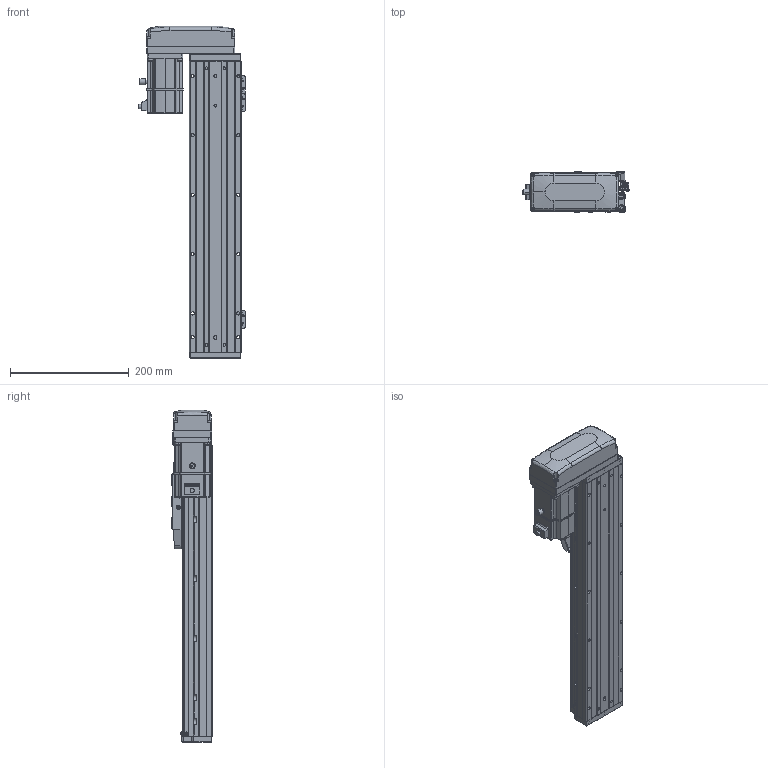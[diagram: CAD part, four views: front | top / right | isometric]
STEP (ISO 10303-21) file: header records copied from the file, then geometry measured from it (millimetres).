
FILE_DESCRIPTION (( 'STEP AP203' ), '1' );
FILE_NAME ('CTHA86-300-BR-M20-C4L.step', '2022-04-26T00:59:29', ( '微软用户' ), ( '微软中国' ), 'SwSTEP 2.0', 'SolidWorks 2020', '' );
FILE_SCHEMA (( 'CONFIG_CONTROL_DESIGN' ));
Length unit declared in the file: millimetre
Products named in the file (21): CTHA60-016; KTHA86-005; CTHA86-033; GBT70.1 M5℅16; _X2_4E0983F1_X0_200W_1; GB¨uT 70.2-M3¡Á5_M3¡Á6; CTHA86-300-BR-M20-C4L; CTHA86-002; EE_SX911P_R; CTHA86-031; CTHA60-017; CTHA86-030; CTHA60-021; GBT 70.1-M3×16; KTHA86-001_490; GBT 70.3-M3℅6; GBT77-2000 M3×3; GBT 70.1-M3℅6; KTHA86-004; CTHA86-015-1_CTHA86-015-2; GBT 70.1-M3×20
Assembly tree (66 placements, depth 2):
  CTHA86-300-BR-M20-C4L
    KTHA86-001_490
    KTHA86-004
    KTHA86-005
    GB¨uT 70.2-M3¡Á5_M3¡Á6  x10
    EE_SX911P_R  x3
    CTHA60-017  x3
    CTHA60-021  x2
    GBT77-2000 M3×3  x6
    GBT 70.1-M3×20
    GBT70.1 M5℅16  x14
    GBT 70.1-M3×16  x5
    GBT 70.1-M3℅6  x6
    CTHA60-016  x2
    _X2_4E0983F1_X0_200W_1
    CTHA86-002
    CTHA86-031
    CTHA86-030  x2
    GBT 70.3-M3℅6  x4
    CTHA86-015-1_CTHA86-015-2
    CTHA86-033
Bounding box: 178.52 x 68 x 559 mm (x, y, z)
Volume: 2508673 mm3; surface area: 448541.6 mm2
Topology: 68 solids, 68 shells, 2726 faces, 6484 edges, 3988 vertices
Faces by surface type: plane 1427, cylinder 705, cone 363, torus 132, bspline 75, sphere 24
Entity records: 47143 total; most frequent: CARTESIAN_POINT 9171, DIRECTION 7299, ORIENTED_EDGE 7068, EDGE_CURVE 3534, AXIS2_PLACEMENT_3D 2500, VECTOR 2299, LINE 2299, VERTEX_POINT 2220
